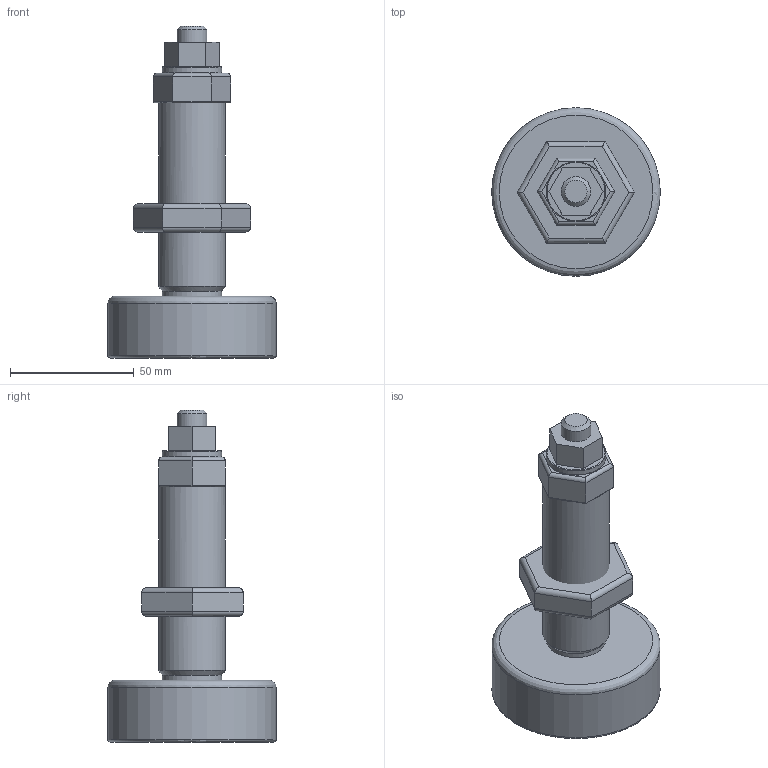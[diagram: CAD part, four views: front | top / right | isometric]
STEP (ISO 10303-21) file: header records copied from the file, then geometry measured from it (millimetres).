
FILE_DESCRIPTION(('STEP AP203'),'2;1');
FILE_NAME('12627.stp','2015-05-20T16:59:40',(''),(''),'2008.1.107','THINKDESIGN','');
FILE_SCHEMA(('CONFIG_CONTROL_DESIGN'));
Length unit declared in the file: millimetre
Bounding box: 68 x 68 x 134 mm (x, y, z)
Volume: 163631.2 mm3; surface area: 29280.8 mm2
Topology: 7 solids, 7 shells, 67 faces, 143 edges, 90 vertices
Faces by surface type: plane 32, cylinder 29, bspline 6
Full cylindrical faces by diameter (mm): 12 x1, 24 x2, 27 x1, 68 x1
Entity records: 3242 total; most frequent: CARTESIAN_POINT 1750, ORIENTED_EDGE 286, DIRECTION 271, EDGE_CURVE 143, AXIS2_PLACEMENT_3D 93, VERTEX_POINT 90, VECTOR 85, LINE 85
